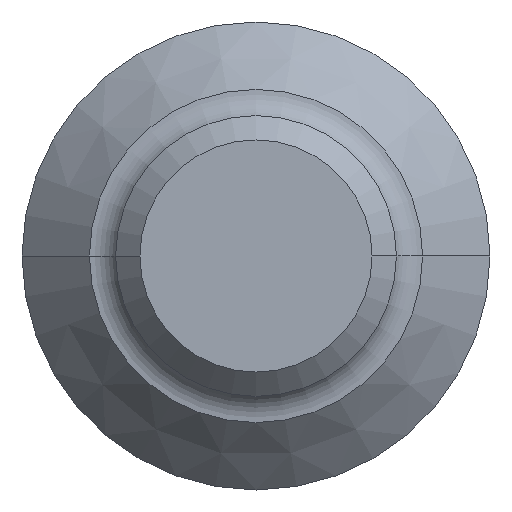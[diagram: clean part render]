
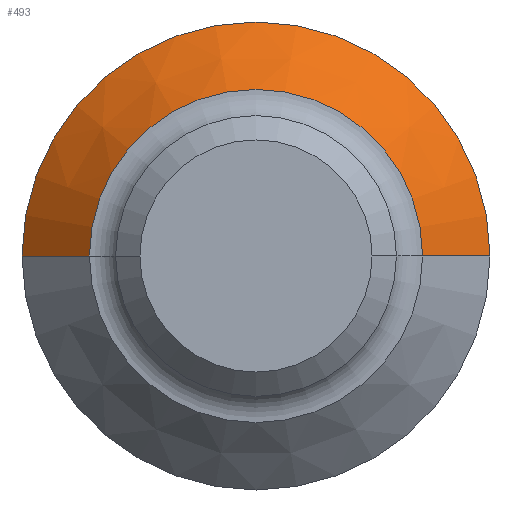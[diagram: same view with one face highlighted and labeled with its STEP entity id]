
A CAD part, left-side view. The second image highlights one B-rep face of the part: STEP entity #493.
In plain terms, the highlighted conical face has half-angle 45 degrees and reference radius 11.303 mm.
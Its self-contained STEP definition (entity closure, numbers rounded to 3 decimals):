
#54 = DIRECTION ( 'NONE',  ( 0., 1., 0. ) ) ;
#56 = ORIENTED_EDGE ( 'NONE', *, *, #421, .F. ) ;
#58 = AXIS2_PLACEMENT_3D ( 'NONE', #230, #543, #465 ) ;
#62 = CARTESIAN_POINT ( 'NONE',  ( 2.997, 11.303, 0. ) ) ;
#67 = VECTOR ( 'NONE', #494, 1000. ) ;
#79 = CARTESIAN_POINT ( 'NONE',  ( 2.997, 11.303, 0. ) ) ;
#86 = AXIS2_PLACEMENT_3D ( 'NONE', #542, #429, #54 ) ;
#92 = ORIENTED_EDGE ( 'NONE', *, *, #469, .T. ) ;
#125 = CONICAL_SURFACE ( 'NONE', #58, 11.303, 0.785 ) ;
#138 = CARTESIAN_POINT ( 'NONE',  ( 2.997, -11.303, 0. ) ) ;
#139 = VERTEX_POINT ( 'NONE', #501 ) ;
#141 = CIRCLE ( 'NONE', #86, 11.303 ) ;
#154 = EDGE_CURVE ( 'NONE', #165, #139, #277, .T. ) ;
#165 = VERTEX_POINT ( 'NONE', #353 ) ;
#203 = LINE ( 'NONE', #79, #366 ) ;
#230 = CARTESIAN_POINT ( 'NONE',  ( 2.997, 0., 0. ) ) ;
#277 = CIRCLE ( 'NONE', #498, 15.875 ) ;
#345 = DIRECTION ( 'NONE',  ( 1., 0., 0. ) ) ;
#346 = VERTEX_POINT ( 'NONE', #138 ) ;
#349 = FACE_OUTER_BOUND ( 'NONE', #487, .T. ) ;
#353 = CARTESIAN_POINT ( 'NONE',  ( 7.569, 15.875, 0. ) ) ;
#366 = VECTOR ( 'NONE', #400, 1000. ) ;
#368 = CARTESIAN_POINT ( 'NONE',  ( 7.569, 0., 0. ) ) ;
#400 = DIRECTION ( 'NONE',  ( 0.707, 0.707, 0. ) ) ;
#413 = VERTEX_POINT ( 'NONE', #62 ) ;
#421 = EDGE_CURVE ( 'NONE', #413, #165, #203, .T. ) ;
#422 = CARTESIAN_POINT ( 'NONE',  ( 2.997, -11.303, 0. ) ) ;
#429 = DIRECTION ( 'NONE',  ( 1., 0., 0. ) ) ;
#447 = DIRECTION ( 'NONE',  ( 0., 1., 0. ) ) ;
#465 = DIRECTION ( 'NONE',  ( 0., 1., 0. ) ) ;
#469 = EDGE_CURVE ( 'NONE', #413, #346, #141, .T. ) ;
#487 = EDGE_LOOP ( 'NONE', ( #92, #530, #545, #56 ) ) ;
#493 = ADVANCED_FACE ( 'NONE', ( #349 ), #125, .T. ) ;
#494 = DIRECTION ( 'NONE',  ( 0.707, -0.707, 0. ) ) ;
#498 = AXIS2_PLACEMENT_3D ( 'NONE', #368, #345, #447 ) ;
#501 = CARTESIAN_POINT ( 'NONE',  ( 7.569, -15.875, 0. ) ) ;
#519 = EDGE_CURVE ( 'NONE', #346, #139, #552, .T. ) ;
#530 = ORIENTED_EDGE ( 'NONE', *, *, #519, .T. ) ;
#542 = CARTESIAN_POINT ( 'NONE',  ( 2.997, 0., 0. ) ) ;
#543 = DIRECTION ( 'NONE',  ( 1., 0., 0. ) ) ;
#545 = ORIENTED_EDGE ( 'NONE', *, *, #154, .F. ) ;
#552 = LINE ( 'NONE', #422, #67 ) ;
